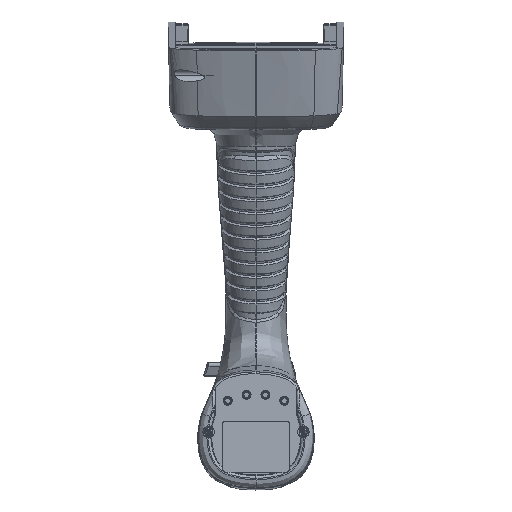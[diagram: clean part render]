
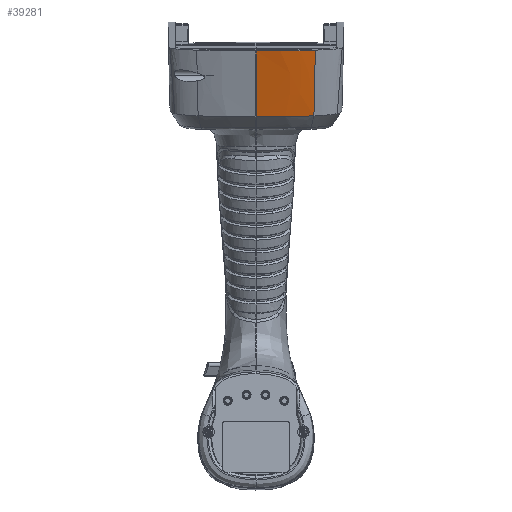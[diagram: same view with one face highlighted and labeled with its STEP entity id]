
A CAD part, top view. The second image highlights one B-rep face of the part: STEP entity #39281.
In plain terms, the highlighted free-form (B-spline) face has degree [3, 3] with [9, 4] control points.
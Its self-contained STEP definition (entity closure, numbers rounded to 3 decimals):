
#134 = CARTESIAN_POINT ( 'NONE',  ( 22.222, 161.704, 145.558 ) ) ;
#3463 = EDGE_CURVE ( 'NONE', #20323, #38307, #59447, .T. ) ;
#6376 = CARTESIAN_POINT ( 'NONE',  ( 24.603, 132.959, 134.865 ) ) ;
#7116 = CARTESIAN_POINT ( 'NONE',  ( 10.264, 133.097, 137.115 ) ) ;
#11658 = ORIENTED_EDGE ( 'NONE', *, *, #3463, .T. ) ;
#14067 = CARTESIAN_POINT ( 'NONE',  ( 25.223, 161.808, 144.816 ) ) ;
#14619 = CARTESIAN_POINT ( 'NONE',  ( -0.179, 151.8, 143.952 ) ) ;
#14640 = CARTESIAN_POINT ( 'NONE',  ( 22.124, 161.144, 145.38 ) ) ;
#15136 = CARTESIAN_POINT ( 'NONE',  ( 24.088, 152.153, 141.74 ) ) ;
#15157 = CARTESIAN_POINT ( 'NONE',  ( 12.559, 160.958, 146.704 ) ) ;
#15885 = CARTESIAN_POINT ( 'NONE',  ( 17.404, 133.242, 136.399 ) ) ;
#16425 = CARTESIAN_POINT ( 'NONE',  ( 4.092, 133.074, 137.228 ) ) ;
#17133 = CARTESIAN_POINT ( 'NONE',  ( 21.658, 132.826, 135.515 ) ) ;
#20323 = VERTEX_POINT ( 'NONE', #88856 ) ;
#22315 = CARTESIAN_POINT ( 'NONE',  ( -0.263, 151.8, 143.953 ) ) ;
#22869 = CARTESIAN_POINT ( 'NONE',  ( 24.289, 161.773, 145.067 ) ) ;
#23021 = B_SPLINE_SURFACE_WITH_KNOTS ( 'NONE', 3, 3, ( 
 ( #72404, #107019, #22315, #71847 ),
 ( #56421, #31122, #14619, #23409 ),
 ( #106481, #64677, #105945, #39370 ),
 ( #81190, #97693, #97150, #75474 ),
 ( #56951, #25406, #90541, #105391 ),
 ( #17133, #90014, #81730, #134 ),
 ( #55314, #89455, #15136, #22869 ),
 ( #6376, #39907, #72944, #14067 ),
 ( #31664, #65228, #50138, #83725 ) ),
 .UNSPECIFIED., .F., .F., .F.,
 ( 4, 1, 1, 1, 1, 1, 4 ),
 ( 4, 4 ),
 ( -0.01, 0., 0.571, 0.758, 0.895, 1., 1.01 ),
 ( 0., 0.982 ),
 .UNSPECIFIED. ) ;
#23409 = CARTESIAN_POINT ( 'NONE',  ( -0.168, 161.447, 147.387 ) ) ;
#24684 = CARTESIAN_POINT ( 'NONE',  ( 20.439, 133.34, 135.912 ) ) ;
#25406 = CARTESIAN_POINT ( 'NONE',  ( 18.348, 142.344, 139.461 ) ) ;
#31122 = CARTESIAN_POINT ( 'NONE',  ( -0.191, 142.154, 140.517 ) ) ;
#31484 = CARTESIAN_POINT ( 'NONE',  ( 0., 142.34, 140.581 ) ) ;
#31664 = CARTESIAN_POINT ( 'NONE',  ( 24.683, 132.962, 134.845 ) ) ;
#31684 = CARTESIAN_POINT ( 'NONE',  ( 10.289, 160.936, 146.866 ) ) ;
#38307 = VERTEX_POINT ( 'NONE', #50121 ) ;
#39198 = CARTESIAN_POINT ( 'NONE',  ( 0., 160.891, 147.187 ) ) ;
#39281 = ADVANCED_FACE ( 'NONE', ( #100786 ), #23021, .T. ) ;
#39370 = CARTESIAN_POINT ( 'NONE',  ( 4.719, 161.457, 147.317 ) ) ;
#39826 = ORIENTED_EDGE ( 'NONE', *, *, #93796, .F. ) ;
#39907 = CARTESIAN_POINT ( 'NONE',  ( 24.81, 142.575, 138.182 ) ) ;
#40267 = CARTESIAN_POINT ( 'NONE',  ( 0., 133.064, 137.278 ) ) ;
#41715 = CARTESIAN_POINT ( 'NONE',  ( 23.459, 133.457, 135.333 ) ) ;
#44207 = EDGE_LOOP ( 'NONE', ( #39826, #99325, #11658, #71231 ) ) ;
#46931 = EDGE_CURVE ( 'NONE', #38307, #93766, #108404, .T. ) ;
#47192 = CARTESIAN_POINT ( 'NONE',  ( 24.456, 133.506, 135.094 ) ) ;
#48176 = CARTESIAN_POINT ( 'NONE',  ( 18.655, 161.058, 145.999 ) ) ;
#48695 = CARTESIAN_POINT ( 'NONE',  ( 2.783, 160.896, 147.146 ) ) ;
#48882 = CARTESIAN_POINT ( 'NONE',  ( 24.456, 133.506, 135.094 ) ) ;
#49422 = CARTESIAN_POINT ( 'NONE',  ( 0., 133.064, 137.278 ) ) ;
#50121 = CARTESIAN_POINT ( 'NONE',  ( 0., 160.891, 147.187 ) ) ;
#50138 = CARTESIAN_POINT ( 'NONE',  ( 25.097, 152.195, 141.478 ) ) ;
#55314 = CARTESIAN_POINT ( 'NONE',  ( 23.686, 132.913, 135.086 ) ) ;
#55457 = LINE ( 'NONE', #47192, #63537 ) ;
#56421 = CARTESIAN_POINT ( 'NONE',  ( -0.202, 132.507, 137.083 ) ) ;
#56951 = CARTESIAN_POINT ( 'NONE',  ( 18.186, 132.71, 136.087 ) ) ;
#56972 = CARTESIAN_POINT ( 'NONE',  ( 25.049, 161.245, 144.667 ) ) ;
#59447 = B_SPLINE_CURVE_WITH_KNOTS ( 'NONE', 3,
 ( #56972, #80105, #14640, #48176, #81753, #15157, #31684, #69805, #48695, #103352 ),
 .UNSPECIFIED., .F., .F.,
 ( 4, 2, 2, 2, 4 ),
 ( 0., 0.25, 0.5, 0.75, 1. ),
 .UNSPECIFIED. ) ;
#63537 = VECTOR ( 'NONE', #80776, 1000. ) ;
#64677 = CARTESIAN_POINT ( 'NONE',  ( 4.613, 142.165, 140.456 ) ) ;
#65228 = CARTESIAN_POINT ( 'NONE',  ( 24.89, 142.579, 138.161 ) ) ;
#67119 = B_SPLINE_CURVE_WITH_KNOTS ( 'NONE', 3,
 ( #48882, #41715, #82473, #24684, #15885, #7116, #16425, #49422 ),
 .UNSPECIFIED., .F., .F.,
 ( 4, 2, 1, 1, 4 ),
 ( 0., 0.125, 0.25, 0.5, 1. ),
 .UNSPECIFIED. ) ;
#69805 = CARTESIAN_POINT ( 'NONE',  ( 5.402, 160.904, 147.088 ) ) ;
#71231 = ORIENTED_EDGE ( 'NONE', *, *, #46931, .T. ) ;
#71847 = CARTESIAN_POINT ( 'NONE',  ( -0.252, 161.447, 147.388 ) ) ;
#72404 = CARTESIAN_POINT ( 'NONE',  ( -0.284, 132.507, 137.084 ) ) ;
#72944 = CARTESIAN_POINT ( 'NONE',  ( 25.016, 152.192, 141.499 ) ) ;
#75474 = CARTESIAN_POINT ( 'NONE',  ( 11.197, 161.48, 147.153 ) ) ;
#80105 = CARTESIAN_POINT ( 'NONE',  ( 23.677, 161.194, 145.031 ) ) ;
#80776 = DIRECTION ( 'NONE',  ( 0.02, 0.945, 0.326 ) ) ;
#81190 = CARTESIAN_POINT ( 'NONE',  ( 10.89, 132.543, 136.905 ) ) ;
#81730 = CARTESIAN_POINT ( 'NONE',  ( 22.034, 152.078, 142.211 ) ) ;
#81753 = CARTESIAN_POINT ( 'NONE',  ( 16.741, 161.019, 146.269 ) ) ;
#82473 = CARTESIAN_POINT ( 'NONE',  ( 22.454, 133.415, 135.541 ) ) ;
#83725 = CARTESIAN_POINT ( 'NONE',  ( 25.304, 161.811, 144.794 ) ) ;
#88856 = CARTESIAN_POINT ( 'NONE',  ( 25.049, 161.245, 144.667 ) ) ;
#89455 = CARTESIAN_POINT ( 'NONE',  ( 23.887, 142.533, 138.413 ) ) ;
#90014 = CARTESIAN_POINT ( 'NONE',  ( 21.846, 142.452, 138.863 ) ) ;
#90541 = CARTESIAN_POINT ( 'NONE',  ( 18.509, 151.978, 142.835 ) ) ;
#91209 = EDGE_CURVE ( 'NONE', #94611, #20323, #55457, .T. ) ;
#92795 = CARTESIAN_POINT ( 'NONE',  ( 24.456, 133.506, 135.094 ) ) ;
#93766 = VERTEX_POINT ( 'NONE', #100061 ) ;
#93796 = EDGE_CURVE ( 'NONE', #94611, #93766, #67119, .T. ) ;
#94611 = VERTEX_POINT ( 'NONE', #92795 ) ;
#97150 = CARTESIAN_POINT ( 'NONE',  ( 11.095, 151.834, 143.737 ) ) ;
#97693 = CARTESIAN_POINT ( 'NONE',  ( 10.992, 142.189, 140.321 ) ) ;
#99325 = ORIENTED_EDGE ( 'NONE', *, *, #91209, .T. ) ;
#100061 = CARTESIAN_POINT ( 'NONE',  ( 0., 133.064, 137.278 ) ) ;
#100786 = FACE_OUTER_BOUND ( 'NONE', #44207, .T. ) ;
#103352 = CARTESIAN_POINT ( 'NONE',  ( 0., 160.891, 147.187 ) ) ;
#105391 = CARTESIAN_POINT ( 'NONE',  ( 18.671, 161.612, 146.208 ) ) ;
#105945 = CARTESIAN_POINT ( 'NONE',  ( 4.666, 151.811, 143.887 ) ) ;
#106481 = CARTESIAN_POINT ( 'NONE',  ( 4.56, 132.519, 137.025 ) ) ;
#106840 = CARTESIAN_POINT ( 'NONE',  ( 0., 151.615, 143.884 ) ) ;
#107019 = CARTESIAN_POINT ( 'NONE',  ( -0.273, 142.154, 140.519 ) ) ;
#108404 = B_SPLINE_CURVE_WITH_KNOTS ( 'NONE', 3,
 ( #39198, #106840, #31484, #40267 ),
 .UNSPECIFIED., .F., .F.,
 ( 4, 4 ),
 ( 0., 1. ),
 .UNSPECIFIED. ) ;
